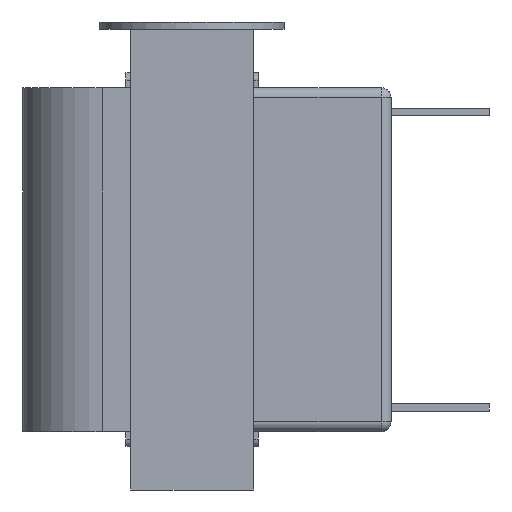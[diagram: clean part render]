
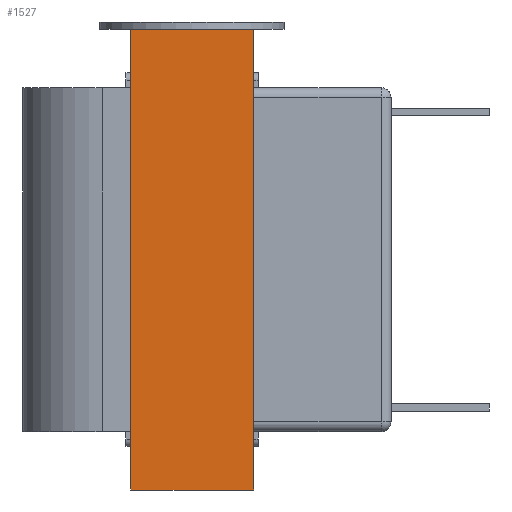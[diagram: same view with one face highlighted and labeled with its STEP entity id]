
A CAD part, left-side view. The second image highlights one B-rep face of the part: STEP entity #1527.
In plain terms, the highlighted planar face has unit normal (-1, 0, 0).
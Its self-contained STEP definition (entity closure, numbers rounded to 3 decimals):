
#90=DIRECTION('',(0.,1.,0.));
#91=VECTOR('',#90,12.7);
#92=CARTESIAN_POINT('',(-28.575,-6.35,-0.762));
#93=LINE('',#92,#91);
#134=DIRECTION('',(0.,0.,1.));
#135=VECTOR('',#134,47.625);
#136=CARTESIAN_POINT('',(-28.575,-6.35,-48.387));
#137=LINE('',#136,#135);
#206=DIRECTION('',(0.,0.,1.));
#207=VECTOR('',#206,47.625);
#208=CARTESIAN_POINT('',(-28.575,6.35,-48.387));
#209=LINE('',#208,#207);
#286=DIRECTION('',(0.,1.,0.));
#287=VECTOR('',#286,12.7);
#288=CARTESIAN_POINT('',(-28.575,-6.35,-48.387));
#289=LINE('',#288,#287);
#971=CARTESIAN_POINT('',(-28.575,-6.35,-48.387));
#973=VERTEX_POINT('',#971);
#975=CARTESIAN_POINT('',(-28.575,6.35,-48.387));
#977=VERTEX_POINT('',#975);
#978=CARTESIAN_POINT('',(-28.575,-6.35,-0.762));
#980=VERTEX_POINT('',#978);
#982=CARTESIAN_POINT('',(-28.575,6.35,-0.762));
#984=VERTEX_POINT('',#982);
#1515=CARTESIAN_POINT('',(-28.575,-6.35,-48.387));
#1516=DIRECTION('',(-1.,0.,0.));
#1517=DIRECTION('',(0.,0.,1.));
#1518=AXIS2_PLACEMENT_3D('',#1515,#1516,#1517);
#1519=PLANE('',#1518);
#1520=ORIENTED_EDGE('',*,*,#1309,.F.);
#1521=ORIENTED_EDGE('',*,*,#1406,.F.);
#1523=ORIENTED_EDGE('',*,*,#1522,.T.);
#1524=ORIENTED_EDGE('',*,*,#1473,.T.);
#1525=EDGE_LOOP('',(#1520,#1521,#1523,#1524));
#1526=FACE_OUTER_BOUND('',#1525,.F.);
#1309=EDGE_CURVE('',#980,#984,#93,.T.);
#1406=EDGE_CURVE('',#973,#980,#137,.T.);
#1473=EDGE_CURVE('',#977,#984,#209,.T.);
#1522=EDGE_CURVE('',#973,#977,#289,.T.);
#1527=ADVANCED_FACE('',(#1526),#1519,.T.);
